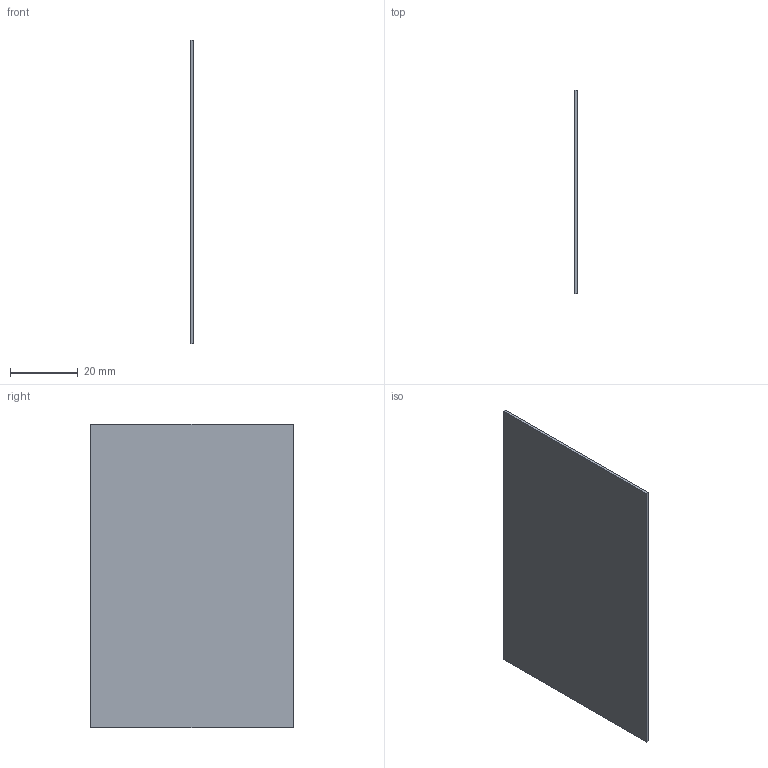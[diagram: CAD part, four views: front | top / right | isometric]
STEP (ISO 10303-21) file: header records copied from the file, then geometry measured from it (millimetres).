
FILE_DESCRIPTION(('Open CASCADE Model'),'2;1');
FILE_NAME('radiator','2026-08-12T02:42:46',('Author'),('Open CASCADE'), 'Open CASCADE STEP processor 7.9','build123d','Unknown');
FILE_SCHEMA(('AUTOMOTIVE_DESIGN { 1 0 10303 214 1 1 1 1 }'));
Length unit declared in the file: millimetre
Products named in the file (2): radiator
Assembly tree (1 placements, depth 2):
  radiator
    radiator
Bounding box: 0.8 x 60 x 90 mm (x, y, z)
Volume: 4320 mm3; surface area: 11040 mm2
Topology: 1 solids, 1 shells, 6 faces, 12 edges, 8 vertices
Faces by surface type: plane 6
Entity records: 340 total; most frequent: CARTESIAN_POINT 52, DIRECTION 52, LINE 36, VECTOR 36, ORIENTED_EDGE 24, PCURVE 24, DEFINITIONAL_REPRESENTATION 24, EDGE_CURVE 12
